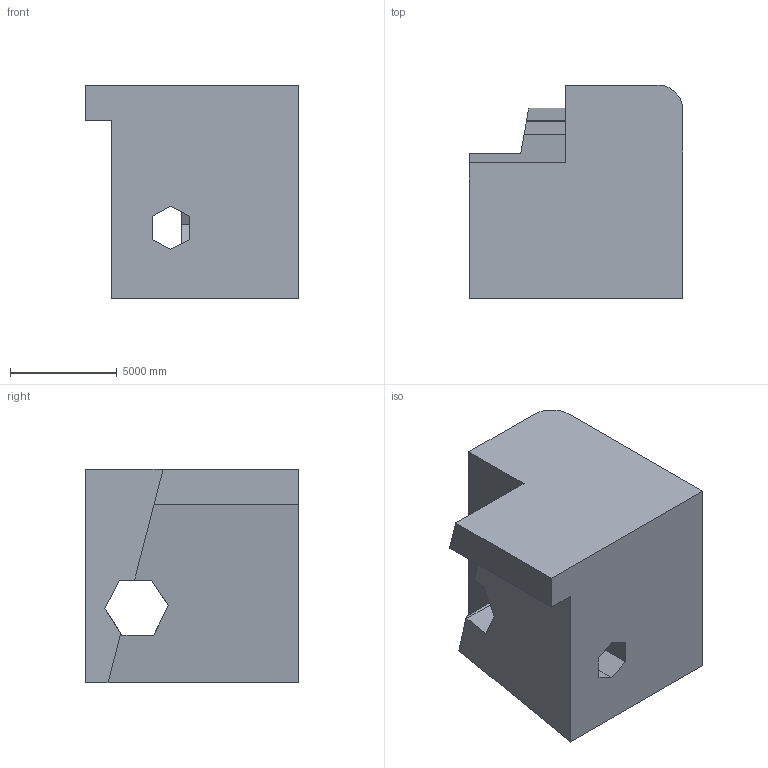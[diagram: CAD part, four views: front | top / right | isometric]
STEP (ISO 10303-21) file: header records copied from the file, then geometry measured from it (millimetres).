
FILE_DESCRIPTION (( 'STEP AP203' ), '1' );
FILE_NAME ('1475.STEP', '2022-08-26T13:16:45', ( 'user' ), ( '' ), 'SwSTEP 2.0', 'SolidWorks 2021', '' );
FILE_SCHEMA (( 'CONFIG_CONTROL_DESIGN' ));
Length unit declared in the file: centimetre
Products named in the file (1): 1475
Bounding box: 10000 x 10000 x 10000 mm (x, y, z)
Volume: 707325292513.9 mm3; surface area: 614846711.2 mm2
Topology: 1 solids, 1 shells, 24 faces, 75 edges, 50 vertices
Faces by surface type: plane 23, cylinder 1
Entity records: 906 total; most frequent: CARTESIAN_POINT 156, ORIENTED_EDGE 150, DIRECTION 125, EDGE_CURVE 75, LINE 71, VECTOR 71, VERTEX_POINT 50, AXIS2_PLACEMENT_3D 27
